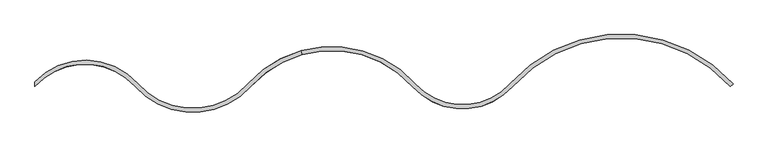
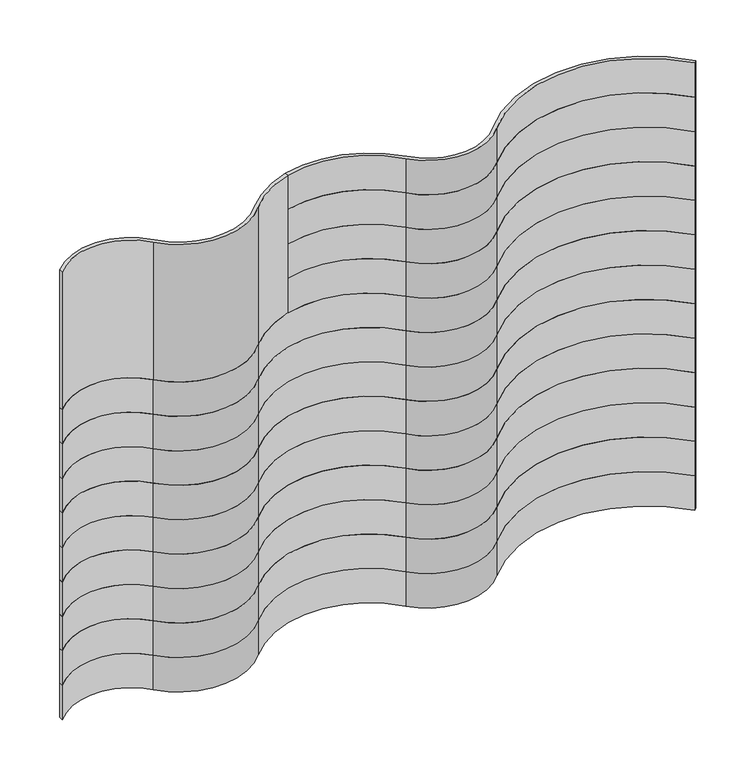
"""IFC4 building model written with IfcOpenShell, lengths in millimetres: furniture geometry, FDE_BD02_BandeiraPaulista2 : BD02_BandeiraPiauí."""

from ifc_helpers import new_model, si_unit, point, frame, frame_2d, origin, origin_with_axes, place, context, project, spatial, polyline, circle_curve, trimmed, segment, composite_curve, outline, extrude, source, transform, mapped, element, save


def furniture_1b5c0fb5(model_context):
    return source(origin(), model_context, "Body", "SweptSolid", [
        extrude(outline(composite_curve([segment(trimmed(circle_curve(frame_2d((770.0, -188.1317711)), 281.9460291), [point((980.0, 0.0))], [point((693.608452, 83.2681086))], True, "CARTESIAN"), True, "CONTINUOUS"), segment(polyline([(693.608452, 83.2681086), (690.8990133, 92.89406)]), True, "CONTINUOUS"), segment(trimmed(circle_curve(frame_2d((770.0, -188.1317711)), 291.9460291), [point((690.8990133, 92.89406))], [point((987.448234, 6.6726164))], False, "CARTESIAN"), True, "CONTINUOUS"), segment(trimmed(circle_curve(frame_2d((1110.0, 116.462525)), 164.538018), [point((987.448234, 6.6726164))], [point((1232.551766, 6.6726164))], True, "CARTESIAN"), True, "CONTINUOUS"), segment(trimmed(circle_curve(frame_2d((1522.5, -253.0820254)), 389.2845391), [point((1232.551766, 6.6726164))], [point((1812.081452, 7.081452))], False, "CARTESIAN"), True, "CONTINUOUS"), segment(polyline([(1812.081452, 7.081452), (1805.0, 0.0)]), True, "CONTINUOUS"), segment(trimmed(circle_curve(frame_2d((1522.5, -253.0820254)), 379.2845391), [point((1805.0, 0.0))], [point((1240.0, 0.0))], True, "CARTESIAN"), True, "CONTINUOUS"), segment(trimmed(circle_curve(frame_2d((1110.0, 116.462525)), 174.538018), [point((1240.0, 0.0))], [point((980.0, 0.0))], False, "CARTESIAN"), True, "CONTINUOUS")], self_intersect=False)), frame((0.0, 0.0, 1142.3076923), z_axis=(0.0, 0.0, 1.0), x_axis=(1.0, 0.0, 0.0)), (0.0, 0.0, 1.0), 103.8461538),
        extrude(outline(composite_curve([segment(trimmed(circle_curve(frame_2d((770.0, -188.1317711)), 281.9460291), [point((980.0, 0.0))], [point((693.608452, 83.2681086))], True, "CARTESIAN"), True, "CONTINUOUS"), segment(polyline([(693.608452, 83.2681086), (690.8990133, 92.89406)]), True, "CONTINUOUS"), segment(trimmed(circle_curve(frame_2d((770.0, -188.1317711)), 291.9460291), [point((690.8990133, 92.89406))], [point((987.448234, 6.6726164))], False, "CARTESIAN"), True, "CONTINUOUS"), segment(trimmed(circle_curve(frame_2d((1110.0, 116.462525)), 164.538018), [point((987.448234, 6.6726164))], [point((1232.551766, 6.6726164))], True, "CARTESIAN"), True, "CONTINUOUS"), segment(trimmed(circle_curve(frame_2d((1522.5, -253.0820254)), 389.2845391), [point((1232.551766, 6.6726164))], [point((1812.081452, 7.081452))], False, "CARTESIAN"), True, "CONTINUOUS"), segment(polyline([(1812.081452, 7.081452), (1805.0, 0.0)]), True, "CONTINUOUS"), segment(trimmed(circle_curve(frame_2d((1522.5, -253.0820254)), 379.2845391), [point((1805.0, 0.0))], [point((1240.0, 0.0))], True, "CARTESIAN"), True, "CONTINUOUS"), segment(trimmed(circle_curve(frame_2d((1110.0, 116.462525)), 174.538018), [point((1240.0, 0.0))], [point((980.0, 0.0))], False, "CARTESIAN"), True, "CONTINUOUS")], self_intersect=False)), frame((0.0, 0.0, 934.6153846), z_axis=(0.0, 0.0, 1.0), x_axis=(1.0, 0.0, 0.0)), (0.0, 0.0, 1.0), 103.8461538),
        extrude(outline(composite_curve([segment(trimmed(circle_curve(frame_2d((130.0, -116.462525)), 174.538018), [point((260.0, 0.0))], [point((0.0, 0.0))], True, "CARTESIAN"), True, "CONTINUOUS"), segment(polyline([(0.0, 0.0), (0.0, 11.9157443)]), True, "CONTINUOUS"), segment(trimmed(circle_curve(frame_2d((131.3399428, -112.0378868)), 180.5953577), [point((0.0, 11.9157443))], [point((266.6267461, 7.5955705))], False, "CARTESIAN"), True, "CONTINUOUS"), segment(trimmed(circle_curve(frame_2d((410.0, 134.3798365)), 191.3900208), [point((266.6267461, 7.5955705))], [point((552.551766, 6.6726164))], True, "CARTESIAN"), True, "CONTINUOUS"), segment(trimmed(circle_curve(frame_2d((770.0, -188.1317711)), 291.9460291), [point((552.551766, 6.6726164))], [point((987.448234, 6.6726164))], False, "CARTESIAN"), True, "CONTINUOUS"), segment(trimmed(circle_curve(frame_2d((1110.0, 116.462525)), 164.538018), [point((987.448234, 6.6726164))], [point((1232.551766, 6.6726164))], True, "CARTESIAN"), True, "CONTINUOUS"), segment(trimmed(circle_curve(frame_2d((1522.5, -253.0820254)), 389.2845391), [point((1232.551766, 6.6726164))], [point((1812.081452, 7.081452))], False, "CARTESIAN"), True, "CONTINUOUS"), segment(polyline([(1812.081452, 7.081452), (1805.0, 0.0)]), True, "CONTINUOUS"), segment(trimmed(circle_curve(frame_2d((1522.5, -253.0820254)), 379.2845391), [point((1805.0, 0.0))], [point((1240.0, 0.0))], True, "CARTESIAN"), True, "CONTINUOUS"), segment(trimmed(circle_curve(frame_2d((1110.0, 116.462525)), 174.538018), [point((1240.0, 0.0))], [point((980.0, 0.0))], False, "CARTESIAN"), True, "CONTINUOUS"), segment(trimmed(circle_curve(frame_2d((770.0, -188.1317711)), 281.9460291), [point((980.0, 0.0))], [point((560.0, 0.0))], True, "CARTESIAN"), True, "CONTINUOUS"), segment(trimmed(circle_curve(frame_2d((410.0, 134.3798365)), 201.3900208), [point((560.0, 0.0))], [point((260.0, 0.0))], False, "CARTESIAN"), True, "CONTINUOUS")], self_intersect=False)), frame((0.0, 0.0, 726.9230769), z_axis=(0.0, 0.0, 1.0), x_axis=(1.0, 0.0, 0.0)), (0.0, 0.0, 1.0), 103.8461538),
        extrude(outline(composite_curve([segment(trimmed(circle_curve(frame_2d((130.0, -116.462525)), 174.538018), [point((260.0, 0.0))], [point((0.0, 0.0))], True, "CARTESIAN"), True, "CONTINUOUS"), segment(polyline([(0.0, 0.0), (0.0, 11.9157443)]), True, "CONTINUOUS"), segment(trimmed(circle_curve(frame_2d((131.3399428, -112.0378868)), 180.5953577), [point((0.0, 11.9157443))], [point((266.6267461, 7.5955705))], False, "CARTESIAN"), True, "CONTINUOUS"), segment(trimmed(circle_curve(frame_2d((410.0, 134.3798365)), 191.3900208), [point((266.6267461, 7.5955705))], [point((552.551766, 6.6726164))], True, "CARTESIAN"), True, "CONTINUOUS"), segment(trimmed(circle_curve(frame_2d((770.0, -188.1317711)), 291.9460291), [point((552.551766, 6.6726164))], [point((987.448234, 6.6726164))], False, "CARTESIAN"), True, "CONTINUOUS"), segment(trimmed(circle_curve(frame_2d((1110.0, 116.462525)), 164.538018), [point((987.448234, 6.6726164))], [point((1232.551766, 6.6726164))], True, "CARTESIAN"), True, "CONTINUOUS"), segment(trimmed(circle_curve(frame_2d((1522.5, -253.0820254)), 389.2845391), [point((1232.551766, 6.6726164))], [point((1812.081452, 7.081452))], False, "CARTESIAN"), True, "CONTINUOUS"), segment(polyline([(1812.081452, 7.081452), (1805.0, 0.0)]), True, "CONTINUOUS"), segment(trimmed(circle_curve(frame_2d((1522.5, -253.0820254)), 379.2845391), [point((1805.0, 0.0))], [point((1240.0, 0.0))], True, "CARTESIAN"), True, "CONTINUOUS"), segment(trimmed(circle_curve(frame_2d((1110.0, 116.462525)), 174.538018), [point((1240.0, 0.0))], [point((980.0, 0.0))], False, "CARTESIAN"), True, "CONTINUOUS"), segment(trimmed(circle_curve(frame_2d((770.0, -188.1317711)), 281.9460291), [point((980.0, 0.0))], [point((560.0, 0.0))], True, "CARTESIAN"), True, "CONTINUOUS"), segment(trimmed(circle_curve(frame_2d((410.0, 134.3798365)), 201.3900208), [point((560.0, 0.0))], [point((260.0, 0.0))], False, "CARTESIAN"), True, "CONTINUOUS")], self_intersect=False)), frame((0.0, 0.0, 519.2307692), z_axis=(0.0, 0.0, 1.0), x_axis=(1.0, 0.0, 0.0)), (0.0, 0.0, 1.0), 103.8461538),
        extrude(outline(composite_curve([segment(trimmed(circle_curve(frame_2d((130.0, -116.462525)), 174.538018), [point((260.0, 0.0))], [point((0.0, 0.0))], True, "CARTESIAN"), True, "CONTINUOUS"), segment(polyline([(0.0, 0.0), (0.0, 11.9157443)]), True, "CONTINUOUS"), segment(trimmed(circle_curve(frame_2d((131.3399428, -112.0378868)), 180.5953577), [point((0.0, 11.9157443))], [point((266.6267461, 7.5955705))], False, "CARTESIAN"), True, "CONTINUOUS"), segment(trimmed(circle_curve(frame_2d((410.0, 134.3798365)), 191.3900208), [point((266.6267461, 7.5955705))], [point((552.551766, 6.6726164))], True, "CARTESIAN"), True, "CONTINUOUS"), segment(trimmed(circle_curve(frame_2d((770.0, -188.1317711)), 291.9460291), [point((552.551766, 6.6726164))], [point((987.448234, 6.6726164))], False, "CARTESIAN"), True, "CONTINUOUS"), segment(trimmed(circle_curve(frame_2d((1110.0, 116.462525)), 164.538018), [point((987.448234, 6.6726164))], [point((1232.551766, 6.6726164))], True, "CARTESIAN"), True, "CONTINUOUS"), segment(trimmed(circle_curve(frame_2d((1522.5, -253.0820254)), 389.2845391), [point((1232.551766, 6.6726164))], [point((1812.081452, 7.081452))], False, "CARTESIAN"), True, "CONTINUOUS"), segment(polyline([(1812.081452, 7.081452), (1805.0, 0.0)]), True, "CONTINUOUS"), segment(trimmed(circle_curve(frame_2d((1522.5, -253.0820254)), 379.2845391), [point((1805.0, 0.0))], [point((1240.0, 0.0))], True, "CARTESIAN"), True, "CONTINUOUS"), segment(trimmed(circle_curve(frame_2d((1110.0, 116.462525)), 174.538018), [point((1240.0, 0.0))], [point((980.0, 0.0))], False, "CARTESIAN"), True, "CONTINUOUS"), segment(trimmed(circle_curve(frame_2d((770.0, -188.1317711)), 281.9460291), [point((980.0, 0.0))], [point((560.0, 0.0))], True, "CARTESIAN"), True, "CONTINUOUS"), segment(trimmed(circle_curve(frame_2d((410.0, 134.3798365)), 201.3900208), [point((560.0, 0.0))], [point((260.0, 0.0))], False, "CARTESIAN"), True, "CONTINUOUS")], self_intersect=False)), frame((0.0, 0.0, 311.5384615), z_axis=(0.0, 0.0, 1.0), x_axis=(1.0, 0.0, 0.0)), (0.0, 0.0, 1.0), 103.8461538),
        extrude(outline(composite_curve([segment(trimmed(circle_curve(frame_2d((130.0, -116.462525)), 174.538018), [point((260.0, 0.0))], [point((0.0, 0.0))], True, "CARTESIAN"), True, "CONTINUOUS"), segment(polyline([(0.0, 0.0), (0.0, 11.9157443)]), True, "CONTINUOUS"), segment(trimmed(circle_curve(frame_2d((131.3399428, -112.0378868)), 180.5953577), [point((0.0, 11.9157443))], [point((266.6267461, 7.5955705))], False, "CARTESIAN"), True, "CONTINUOUS"), segment(trimmed(circle_curve(frame_2d((410.0, 134.3798365)), 191.3900208), [point((266.6267461, 7.5955705))], [point((552.551766, 6.6726164))], True, "CARTESIAN"), True, "CONTINUOUS"), segment(trimmed(circle_curve(frame_2d((770.0, -188.1317711)), 291.9460291), [point((552.551766, 6.6726164))], [point((987.448234, 6.6726164))], False, "CARTESIAN"), True, "CONTINUOUS"), segment(trimmed(circle_curve(frame_2d((1110.0, 116.462525)), 164.538018), [point((987.448234, 6.6726164))], [point((1232.551766, 6.6726164))], True, "CARTESIAN"), True, "CONTINUOUS"), segment(trimmed(circle_curve(frame_2d((1522.5, -253.0820254)), 389.2845391), [point((1232.551766, 6.6726164))], [point((1812.081452, 7.081452))], False, "CARTESIAN"), True, "CONTINUOUS"), segment(polyline([(1812.081452, 7.081452), (1805.0, 0.0)]), True, "CONTINUOUS"), segment(trimmed(circle_curve(frame_2d((1522.5, -253.0820254)), 379.2845391), [point((1805.0, 0.0))], [point((1240.0, 0.0))], True, "CARTESIAN"), True, "CONTINUOUS"), segment(trimmed(circle_curve(frame_2d((1110.0, 116.462525)), 174.538018), [point((1240.0, 0.0))], [point((980.0, 0.0))], False, "CARTESIAN"), True, "CONTINUOUS"), segment(trimmed(circle_curve(frame_2d((770.0, -188.1317711)), 281.9460291), [point((980.0, 0.0))], [point((560.0, 0.0))], True, "CARTESIAN"), True, "CONTINUOUS"), segment(trimmed(circle_curve(frame_2d((410.0, 134.3798365)), 201.3900208), [point((560.0, 0.0))], [point((260.0, 0.0))], False, "CARTESIAN"), True, "CONTINUOUS")], self_intersect=False)), frame((0.0, 0.0, 103.8461538), z_axis=(0.0, 0.0, 1.0), x_axis=(1.0, 0.0, 0.0)), (0.0, 0.0, 1.0), 103.8461538),
        extrude(outline(composite_curve([segment(trimmed(circle_curve(frame_2d((130.0, -116.462525)), 174.538018), [point((260.0, 0.0))], [point((0.0, 0.0))], True, "CARTESIAN"), True, "CONTINUOUS"), segment(polyline([(0.0, 0.0), (0.0, 11.9157443)]), True, "CONTINUOUS"), segment(trimmed(circle_curve(frame_2d((131.3399428, -112.0378868)), 180.5953577), [point((0.0, 11.9157443))], [point((266.6267461, 7.5955705))], False, "CARTESIAN"), True, "CONTINUOUS"), segment(trimmed(circle_curve(frame_2d((410.0, 134.3798365)), 191.3900208), [point((266.6267461, 7.5955705))], [point((552.551766, 6.6726164))], True, "CARTESIAN"), True, "CONTINUOUS"), segment(trimmed(circle_curve(frame_2d((770.0, -188.1317711)), 291.9460291), [point((552.551766, 6.6726164))], [point((987.448234, 6.6726164))], False, "CARTESIAN"), True, "CONTINUOUS"), segment(trimmed(circle_curve(frame_2d((1110.0, 116.462525)), 164.538018), [point((987.448234, 6.6726164))], [point((1232.551766, 6.6726164))], True, "CARTESIAN"), True, "CONTINUOUS"), segment(trimmed(circle_curve(frame_2d((1522.5, -253.0820254)), 389.2845391), [point((1232.551766, 6.6726164))], [point((1812.081452, 7.081452))], False, "CARTESIAN"), True, "CONTINUOUS"), segment(polyline([(1812.081452, 7.081452), (1805.0, 0.0)]), True, "CONTINUOUS"), segment(trimmed(circle_curve(frame_2d((1522.5, -253.0820254)), 379.2845391), [point((1805.0, 0.0))], [point((1240.0, 0.0))], True, "CARTESIAN"), True, "CONTINUOUS"), segment(trimmed(circle_curve(frame_2d((1110.0, 116.462525)), 174.538018), [point((1240.0, 0.0))], [point((980.0, 0.0))], False, "CARTESIAN"), True, "CONTINUOUS"), segment(trimmed(circle_curve(frame_2d((770.0, -188.1317711)), 281.9460291), [point((980.0, 0.0))], [point((560.0, 0.0))], True, "CARTESIAN"), True, "CONTINUOUS"), segment(trimmed(circle_curve(frame_2d((410.0, 134.3798365)), 201.3900208), [point((560.0, 0.0))], [point((260.0, 0.0))], False, "CARTESIAN"), True, "CONTINUOUS")], self_intersect=False)), frame((0.0, 0.0, 830.7692308), z_axis=(0.0, 0.0, 1.0), x_axis=(1.0, 0.0, 0.0)), (0.0, 0.0, 1.0), 103.8461538),
        extrude(outline(composite_curve([segment(trimmed(circle_curve(frame_2d((130.0, -116.462525)), 174.538018), [point((260.0, 0.0))], [point((0.0, 0.0))], True, "CARTESIAN"), True, "CONTINUOUS"), segment(polyline([(0.0, 0.0), (0.0, 11.9157443)]), True, "CONTINUOUS"), segment(trimmed(circle_curve(frame_2d((131.3399428, -112.0378868)), 180.5953577), [point((0.0, 11.9157443))], [point((266.6267461, 7.5955705))], False, "CARTESIAN"), True, "CONTINUOUS"), segment(trimmed(circle_curve(frame_2d((410.0, 134.3798365)), 191.3900208), [point((266.6267461, 7.5955705))], [point((552.551766, 6.6726164))], True, "CARTESIAN"), True, "CONTINUOUS"), segment(trimmed(circle_curve(frame_2d((770.0, -188.1317711)), 291.9460291), [point((552.551766, 6.6726164))], [point((987.448234, 6.6726164))], False, "CARTESIAN"), True, "CONTINUOUS"), segment(trimmed(circle_curve(frame_2d((1110.0, 116.462525)), 164.538018), [point((987.448234, 6.6726164))], [point((1232.551766, 6.6726164))], True, "CARTESIAN"), True, "CONTINUOUS"), segment(trimmed(circle_curve(frame_2d((1522.5, -253.0820254)), 389.2845391), [point((1232.551766, 6.6726164))], [point((1812.081452, 7.081452))], False, "CARTESIAN"), True, "CONTINUOUS"), segment(polyline([(1812.081452, 7.081452), (1805.0, 0.0)]), True, "CONTINUOUS"), segment(trimmed(circle_curve(frame_2d((1522.5, -253.0820254)), 379.2845391), [point((1805.0, 0.0))], [point((1240.0, 0.0))], True, "CARTESIAN"), True, "CONTINUOUS"), segment(trimmed(circle_curve(frame_2d((1110.0, 116.462525)), 174.538018), [point((1240.0, 0.0))], [point((980.0, 0.0))], False, "CARTESIAN"), True, "CONTINUOUS"), segment(trimmed(circle_curve(frame_2d((770.0, -188.1317711)), 281.9460291), [point((980.0, 0.0))], [point((560.0, 0.0))], True, "CARTESIAN"), True, "CONTINUOUS"), segment(trimmed(circle_curve(frame_2d((410.0, 134.3798365)), 201.3900208), [point((560.0, 0.0))], [point((260.0, 0.0))], False, "CARTESIAN"), True, "CONTINUOUS")], self_intersect=False)), frame((0.0, 0.0, 623.0769231), z_axis=(0.0, 0.0, 1.0), x_axis=(1.0, 0.0, 0.0)), (0.0, 0.0, 1.0), 103.8461538),
        extrude(outline(composite_curve([segment(trimmed(circle_curve(frame_2d((130.0, -116.462525)), 174.538018), [point((260.0, 0.0))], [point((0.0, 0.0))], True, "CARTESIAN"), True, "CONTINUOUS"), segment(polyline([(0.0, 0.0), (0.0, 11.9157443)]), True, "CONTINUOUS"), segment(trimmed(circle_curve(frame_2d((131.3399428, -112.0378868)), 180.5953577), [point((0.0, 11.9157443))], [point((266.6267461, 7.5955705))], False, "CARTESIAN"), True, "CONTINUOUS"), segment(trimmed(circle_curve(frame_2d((410.0, 134.3798365)), 191.3900208), [point((266.6267461, 7.5955705))], [point((552.551766, 6.6726164))], True, "CARTESIAN"), True, "CONTINUOUS"), segment(trimmed(circle_curve(frame_2d((770.0, -188.1317711)), 291.9460291), [point((552.551766, 6.6726164))], [point((987.448234, 6.6726164))], False, "CARTESIAN"), True, "CONTINUOUS"), segment(trimmed(circle_curve(frame_2d((1110.0, 116.462525)), 164.538018), [point((987.448234, 6.6726164))], [point((1232.551766, 6.6726164))], True, "CARTESIAN"), True, "CONTINUOUS"), segment(trimmed(circle_curve(frame_2d((1522.5, -253.0820254)), 389.2845391), [point((1232.551766, 6.6726164))], [point((1812.081452, 7.081452))], False, "CARTESIAN"), True, "CONTINUOUS"), segment(polyline([(1812.081452, 7.081452), (1805.0, 0.0)]), True, "CONTINUOUS"), segment(trimmed(circle_curve(frame_2d((1522.5, -253.0820254)), 379.2845391), [point((1805.0, 0.0))], [point((1240.0, 0.0))], True, "CARTESIAN"), True, "CONTINUOUS"), segment(trimmed(circle_curve(frame_2d((1110.0, 116.462525)), 174.538018), [point((1240.0, 0.0))], [point((980.0, 0.0))], False, "CARTESIAN"), True, "CONTINUOUS"), segment(trimmed(circle_curve(frame_2d((770.0, -188.1317711)), 281.9460291), [point((980.0, 0.0))], [point((560.0, 0.0))], True, "CARTESIAN"), True, "CONTINUOUS"), segment(trimmed(circle_curve(frame_2d((410.0, 134.3798365)), 201.3900208), [point((560.0, 0.0))], [point((260.0, 0.0))], False, "CARTESIAN"), True, "CONTINUOUS")], self_intersect=False)), frame((0.0, 0.0, 415.3846154), z_axis=(0.0, 0.0, 1.0), x_axis=(1.0, 0.0, 0.0)), (0.0, 0.0, 1.0), 103.8461538),
        extrude(outline(composite_curve([segment(trimmed(circle_curve(frame_2d((130.0, -116.462525)), 174.538018), [point((260.0, 0.0))], [point((0.0, 0.0))], True, "CARTESIAN"), True, "CONTINUOUS"), segment(polyline([(0.0, 0.0), (0.0, 11.9157443)]), True, "CONTINUOUS"), segment(trimmed(circle_curve(frame_2d((131.3399428, -112.0378868)), 180.5953577), [point((0.0, 11.9157443))], [point((266.6267461, 7.5955705))], False, "CARTESIAN"), True, "CONTINUOUS"), segment(trimmed(circle_curve(frame_2d((410.0, 134.3798365)), 191.3900208), [point((266.6267461, 7.5955705))], [point((552.551766, 6.6726164))], True, "CARTESIAN"), True, "CONTINUOUS"), segment(trimmed(circle_curve(frame_2d((770.0, -188.1317711)), 291.9460291), [point((552.551766, 6.6726164))], [point((987.448234, 6.6726164))], False, "CARTESIAN"), True, "CONTINUOUS"), segment(trimmed(circle_curve(frame_2d((1110.0, 116.462525)), 164.538018), [point((987.448234, 6.6726164))], [point((1232.551766, 6.6726164))], True, "CARTESIAN"), True, "CONTINUOUS"), segment(trimmed(circle_curve(frame_2d((1522.5, -253.0820254)), 389.2845391), [point((1232.551766, 6.6726164))], [point((1812.081452, 7.081452))], False, "CARTESIAN"), True, "CONTINUOUS"), segment(polyline([(1812.081452, 7.081452), (1805.0, 0.0)]), True, "CONTINUOUS"), segment(trimmed(circle_curve(frame_2d((1522.5, -253.0820254)), 379.2845391), [point((1805.0, 0.0))], [point((1240.0, 0.0))], True, "CARTESIAN"), True, "CONTINUOUS"), segment(trimmed(circle_curve(frame_2d((1110.0, 116.462525)), 174.538018), [point((1240.0, 0.0))], [point((980.0, 0.0))], False, "CARTESIAN"), True, "CONTINUOUS"), segment(trimmed(circle_curve(frame_2d((770.0, -188.1317711)), 281.9460291), [point((980.0, 0.0))], [point((560.0, 0.0))], True, "CARTESIAN"), True, "CONTINUOUS"), segment(trimmed(circle_curve(frame_2d((410.0, 134.3798365)), 201.3900208), [point((560.0, 0.0))], [point((260.0, 0.0))], False, "CARTESIAN"), True, "CONTINUOUS")], self_intersect=False)), frame((0.0, 0.0, 207.6923077), z_axis=(0.0, 0.0, 1.0), x_axis=(1.0, 0.0, 0.0)), (0.0, 0.0, 1.0), 103.8461538),
        extrude(outline(composite_curve([segment(trimmed(circle_curve(frame_2d((130.0, -116.462525)), 174.538018), [point((260.0, 0.0))], [point((0.0, 0.0))], True, "CARTESIAN"), True, "CONTINUOUS"), segment(polyline([(0.0, 0.0), (0.0, 11.9157443)]), True, "CONTINUOUS"), segment(trimmed(circle_curve(frame_2d((131.3399428, -112.0378868)), 180.5953577), [point((0.0, 11.9157443))], [point((266.6267461, 7.5955705))], False, "CARTESIAN"), True, "CONTINUOUS"), segment(trimmed(circle_curve(frame_2d((410.0, 134.3798365)), 191.3900208), [point((266.6267461, 7.5955705))], [point((552.551766, 6.6726164))], True, "CARTESIAN"), True, "CONTINUOUS"), segment(trimmed(circle_curve(frame_2d((770.0, -188.1317711)), 291.9460291), [point((552.551766, 6.6726164))], [point((987.448234, 6.6726164))], False, "CARTESIAN"), True, "CONTINUOUS"), segment(trimmed(circle_curve(frame_2d((1110.0, 116.462525)), 164.538018), [point((987.448234, 6.6726164))], [point((1232.551766, 6.6726164))], True, "CARTESIAN"), True, "CONTINUOUS"), segment(trimmed(circle_curve(frame_2d((1522.5, -253.0820254)), 389.2845391), [point((1232.551766, 6.6726164))], [point((1812.081452, 7.081452))], False, "CARTESIAN"), True, "CONTINUOUS"), segment(polyline([(1812.081452, 7.081452), (1805.0, 0.0)]), True, "CONTINUOUS"), segment(trimmed(circle_curve(frame_2d((1522.5, -253.0820254)), 379.2845391), [point((1805.0, 0.0))], [point((1240.0, 0.0))], True, "CARTESIAN"), True, "CONTINUOUS"), segment(trimmed(circle_curve(frame_2d((1110.0, 116.462525)), 174.538018), [point((1240.0, 0.0))], [point((980.0, 0.0))], False, "CARTESIAN"), True, "CONTINUOUS"), segment(trimmed(circle_curve(frame_2d((770.0, -188.1317711)), 281.9460291), [point((980.0, 0.0))], [point((560.0, 0.0))], True, "CARTESIAN"), True, "CONTINUOUS"), segment(trimmed(circle_curve(frame_2d((410.0, 134.3798365)), 201.3900208), [point((560.0, 0.0))], [point((260.0, 0.0))], False, "CARTESIAN"), True, "CONTINUOUS")], self_intersect=False)), origin_with_axes(), (0.0, 0.0, 1.0), 103.8461538),
        extrude(outline(composite_curve([segment(trimmed(circle_curve(frame_2d((770.0, -188.1317711)), 281.9460291), [point((980.0, 0.0))], [point((693.608452, 83.2681086))], True, "CARTESIAN"), True, "CONTINUOUS"), segment(polyline([(693.608452, 83.2681086), (690.8990133, 92.89406)]), True, "CONTINUOUS"), segment(trimmed(circle_curve(frame_2d((770.0, -188.1317711)), 291.9460291), [point((690.8990133, 92.89406))], [point((987.448234, 6.6726164))], False, "CARTESIAN"), True, "CONTINUOUS"), segment(trimmed(circle_curve(frame_2d((1110.0, 116.462525)), 164.538018), [point((987.448234, 6.6726164))], [point((1232.551766, 6.6726164))], True, "CARTESIAN"), True, "CONTINUOUS"), segment(trimmed(circle_curve(frame_2d((1522.5, -253.0820254)), 389.2845391), [point((1232.551766, 6.6726164))], [point((1812.081452, 7.081452))], False, "CARTESIAN"), True, "CONTINUOUS"), segment(polyline([(1812.081452, 7.081452), (1805.0, 0.0)]), True, "CONTINUOUS"), segment(trimmed(circle_curve(frame_2d((1522.5, -253.0820254)), 379.2845391), [point((1805.0, 0.0))], [point((1240.0, 0.0))], True, "CARTESIAN"), True, "CONTINUOUS"), segment(trimmed(circle_curve(frame_2d((1110.0, 116.462525)), 174.538018), [point((1240.0, 0.0))], [point((980.0, 0.0))], False, "CARTESIAN"), True, "CONTINUOUS")], self_intersect=False)), frame((0.0, 0.0, 1038.4615385), z_axis=(0.0, 0.0, 1.0), x_axis=(1.0, 0.0, 0.0)), (0.0, 0.0, 1.0), 103.8461538),
        extrude(outline(composite_curve([segment(trimmed(circle_curve(frame_2d((770.0, -188.1317711)), 281.9460291), [point((980.0, 0.0))], [point((693.608452, 83.2681086))], True, "CARTESIAN"), True, "CONTINUOUS"), segment(polyline([(693.608452, 83.2681086), (690.8990133, 92.89406)]), True, "CONTINUOUS"), segment(trimmed(circle_curve(frame_2d((770.0, -188.1317711)), 291.9460291), [point((690.8990133, 92.89406))], [point((987.448234, 6.6726164))], False, "CARTESIAN"), True, "CONTINUOUS"), segment(trimmed(circle_curve(frame_2d((1110.0, 116.462525)), 164.538018), [point((987.448234, 6.6726164))], [point((1232.551766, 6.6726164))], True, "CARTESIAN"), True, "CONTINUOUS"), segment(trimmed(circle_curve(frame_2d((1522.5, -253.0820254)), 389.2845391), [point((1232.551766, 6.6726164))], [point((1812.081452, 7.081452))], False, "CARTESIAN"), True, "CONTINUOUS"), segment(polyline([(1812.081452, 7.081452), (1805.0, 0.0)]), True, "CONTINUOUS"), segment(trimmed(circle_curve(frame_2d((1522.5, -253.0820254)), 379.2845391), [point((1805.0, 0.0))], [point((1240.0, 0.0))], True, "CARTESIAN"), True, "CONTINUOUS"), segment(trimmed(circle_curve(frame_2d((1110.0, 116.462525)), 174.538018), [point((1240.0, 0.0))], [point((980.0, 0.0))], False, "CARTESIAN"), True, "CONTINUOUS")], self_intersect=False)), frame((0.0, 0.0, 1246.1538462), z_axis=(0.0, 0.0, 1.0), x_axis=(1.0, 0.0, 0.0)), (0.0, 0.0, 1.0), 103.8461538),
        extrude(outline(composite_curve([segment(trimmed(circle_curve(frame_2d((770.0, -188.1317711)), 281.9460291), [point((693.608452, 83.2681086))], [point((560.0, 0.0))], True, "CARTESIAN"), True, "CONTINUOUS"), segment(trimmed(circle_curve(frame_2d((410.0, 134.3798365)), 201.3900208), [point((560.0, 0.0))], [point((260.0, 0.0))], False, "CARTESIAN"), True, "CONTINUOUS"), segment(trimmed(circle_curve(frame_2d((130.0, -116.462525)), 174.538018), [point((260.0, 0.0))], [point((0.0, 0.0))], True, "CARTESIAN"), True, "CONTINUOUS"), segment(polyline([(0.0, 0.0), (0.0, 11.9157443)]), True, "CONTINUOUS"), segment(trimmed(circle_curve(frame_2d((131.3399428, -112.0378868)), 180.5953577), [point((0.0, 11.9157443))], [point((266.6267461, 7.5955705))], False, "CARTESIAN"), True, "CONTINUOUS"), segment(trimmed(circle_curve(frame_2d((410.0, 134.3798365)), 191.3900208), [point((266.6267461, 7.5955705))], [point((552.551766, 6.6726164))], True, "CARTESIAN"), True, "CONTINUOUS"), segment(trimmed(circle_curve(frame_2d((770.0, -188.1317711)), 291.9460291), [point((552.551766, 6.6726164))], [point((690.8990133, 92.89406))], False, "CARTESIAN"), True, "CONTINUOUS"), segment(polyline([(690.8990133, 92.89406), (693.608452, 83.2681086)]), True, "CONTINUOUS")], self_intersect=False)), frame((0.0, 0.0, 934.6153846), z_axis=(0.0, 0.0, 1.0), x_axis=(1.0, 0.0, 0.0)), (0.0, 0.0, 1.0), 415.3846154),
    ])


if __name__ == "__main__":
    model = new_model("IFC4")
    model_context = context("Model", 3, world=origin())
    ifc_project = project(units=[si_unit("LENGTHUNIT", "METRE", prefix="MILLI")], contexts=[model_context])
    site = spatial("IfcSite", under=ifc_project)
    building = spatial("IfcBuilding", under=site)
    placement = place(None, origin())
    furniture_shape = furniture_1b5c0fb5(model_context)
    element("IfcFurniture", 1, ObjectType="FDE_BD02_BandeiraPaulista2 : BD02_BandeiraPiauí", at=placement, inside=building, context=model_context, shape_type="MappedRepresentation", body=[
        mapped(furniture_shape, transform((0.0, 0.0, 0.0), x_axis=(1.0, 0.0, 0.0), y_axis=(0.0, 1.0, 0.0), z_axis=(0.0, 0.0, 1.0))),
    ])
    save(model, "model.ifc")
